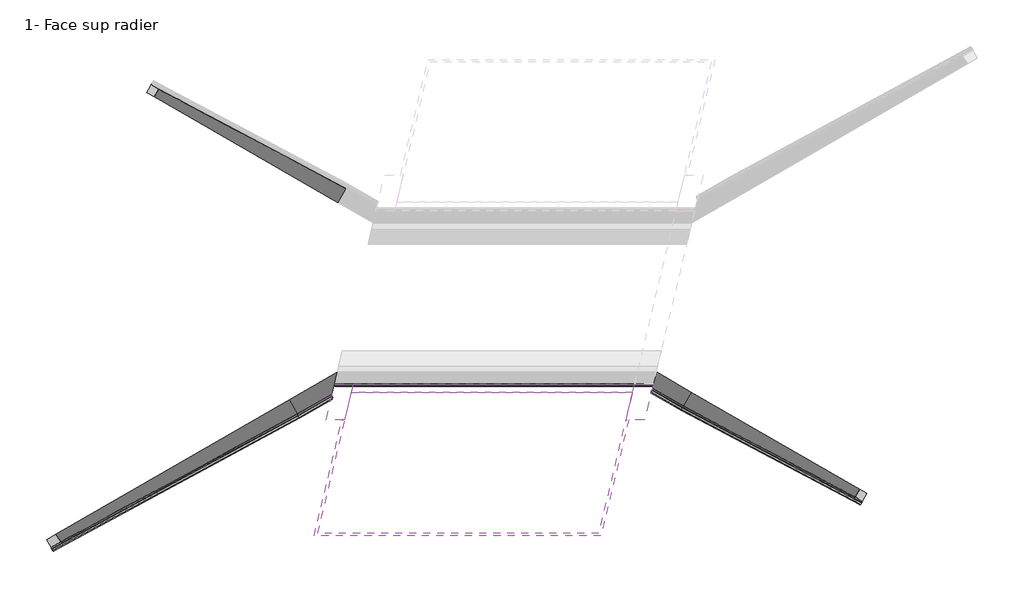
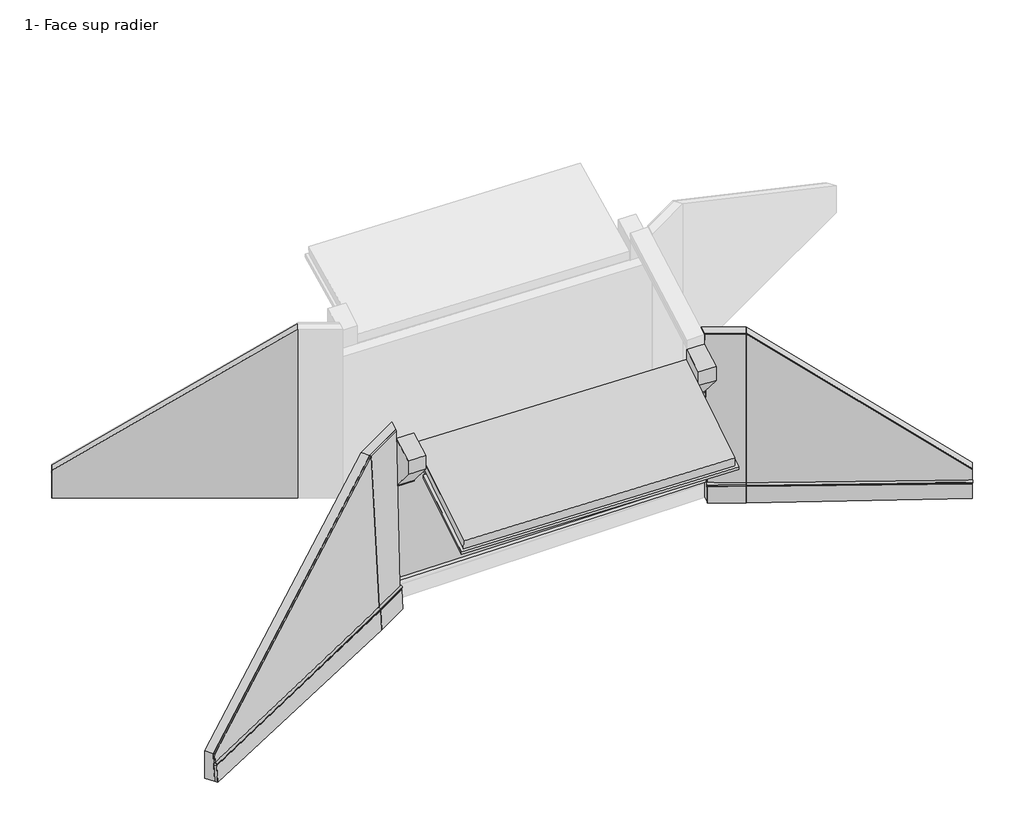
# One storey, part 1 of 2: 18 proxies.
"""IFC4 building model written with IfcOpenShell, lengths in millimetres."""

from ifc_helpers import new_model, si_unit, point, frame, frame_2d, origin, place, context, project, spatial, polyline, circle_curve, ellipse_curve, trimmed, segment, composite_curve, outline, extrude, faceted_brep, element, save
from ifc_brep_helpers import plane_surface, cylinder_surface, spline_surface, advanced_brep

model = new_model("IFC4")

# Units and contexts
model_context = context("Model", 3, world=origin())
ifc_project = project(units=[si_unit("LENGTHUNIT", "METRE", prefix="MILLI")], contexts=[model_context])

# Site, building, storey
site = spatial("IfcSite", under=ifc_project)
building = spatial("IfcBuilding", under=site)
storey = spatial("IfcBuildingStorey", under=building, Name="1- Face sup radier", Elevation=700.0)

# Proxies
placement = place(None, origin())
element("IfcBuildingElementProxy", 1, Name="Mur avec fruit - abouts droits : mur avec fruit - arase rampante ou horizontale - arase avec ou sans pente transversale - abouts droits", ObjectType="Mur avec fruit - abouts droits : mur avec fruit - arase rampante ou horizontale - arase avec ou sans pente transversale - abouts droits", at=placement, inside=storey, context=model_context, shape_type="AdvancedBrep", body=[
    advanced_brep(
    [(11675.368316, -6845.2044766, 1691.0), (11650.3685428, -6888.5058777, 700.0), (11825.3669557, -6585.3960701, 700.0), (11825.3669557, -6585.3960701, 1700.0), (5786.377768, -3445.2353113, 6665.0), (5936.3764077, -3185.4269047, 6674.0), (5936.3764077, -3185.4269047, 700.0), (5637.0291225, -3703.9178814, 700.0)],
    [
        (0, 1),
        (1, 2),
        (2, 3),
        (3, 0),
        (4, 5),
        (5, 6),
        (6, 7),
        (7, 4),
        (4, 0),
        (3, 5),
        (2, 6),
        (1, 7),
    ],
    [
        plane_surface(frame((11744.1176926, -6726.1256237, 1197.75), z_axis=(0.8660280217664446, -0.4999954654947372, 0.0), x_axis=(0.4997706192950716, 0.8656385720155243, 0.029986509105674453))),
        plane_surface(frame((5824.0399265, -3380.0017505, 3684.75), z_axis=(-0.8660280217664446, 0.4999954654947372, 0.0), x_axis=(0.4997706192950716, 0.8656385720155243, 0.029986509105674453))),
        plane_surface(frame((5861.3770879, -3315.331108, 6669.5), z_axis=(0.49903744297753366, -0.3160671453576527, 0.8068848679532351), x_axis=(-0.4997706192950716, -0.8656385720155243, -0.029986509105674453))),
        plane_surface(frame((5936.3764077, -3185.4269047, 3687.0), z_axis=(0.4999954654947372, 0.8660280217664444, 0.0), x_axis=(0.0, 0.0, 1.0))),
        plane_surface(frame((5786.7027651, -3444.6723931, 700.0), z_axis=(0.0, 0.0, -1.0000000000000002), x_axis=(0.4999954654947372, 0.8660280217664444, 0.0))),
        spline_surface(1, 1, [[(5786.377768, -3445.2353113, 6665.0), (11675.368316, -6845.2044766, 1691.0)], [(5637.0291225, -3703.9178814, 700.0), (11650.3685428, -6888.5058777, 700.0)]], [2, 2], [2, 2], [0.0, 1.0], [0.0, 1.0]),
    ],
    [
        (0, [[1, 2, 3, 4]]),
        (1, [[5, 6, 7, 8]]),
        (2, [[-5, 9, -4, 10]]),
        (3, [[-6, -10, -3, 11]]),
        (4, [[-7, -11, -2, 12]]),
        (5, [[-8, -12, -1, -9]]),
    ],
),
])
element("IfcBuildingElementProxy", 2, Name="Mur avec fruit - 1 about biais : mur avec fruit - arase rampante ou horizontale - arase avec ou sans pente transversale - 1 about  biais", ObjectType="Mur avec fruit - 1 about biais : mur avec fruit - arase rampante ou horizontale - arase avec ou sans pente transversale - 1 about  biais", at=placement, inside=storey, context=model_context, shape_type="Brep", body=[
    faceted_brep([(-7419.3379131, -3698.5704237, 6949.0), (-7569.3365527, -3438.7620172, 6958.0), (-7569.3365527, -3438.7620172, 700.0), (-7262.8893319, -3969.5505917, 700.0), (-6063.1513999, -2915.5852432, 6949.0), (-5967.1847125, -2513.770406, 6958.0), (-5967.1847125, -2513.770406, 700.0), (-6163.2446549, -3334.6781184, 700.0)], [[[0, 1, 2, 3]], [[0, 4, 5, 1]], [[1, 5, 6, 2]], [[2, 6, 7, 3]], [[3, 7, 4, 0]], [[4, 7, 6, 5]]]),
])
element("IfcBuildingElementProxy", 3, Name="Mur avec fruit - abouts droits : mur avec fruit - arase rampante ou horizontale - arase avec ou sans pente transversale - abouts droits", ObjectType="Mur avec fruit - abouts droits : mur avec fruit - arase rampante ou horizontale - arase avec ou sans pente transversale - abouts droits", at=placement, inside=storey, context=model_context, shape_type="AdvancedBrep", body=[
    advanced_brep(
    [(-15560.0013177, -8398.5277993, 1691.0), (-15709.9999573, -8138.7193928, 1700.0), (-15709.9999573, -8138.7193928, 700.0), (-15535.0015444, -8441.8292004, 700.0), (-7419.3379131, -3698.5704237, 6949.0), (-7262.8893319, -3969.5505917, 700.0), (-7569.3365527, -3438.7620172, 700.0), (-7569.3365527, -3438.7620172, 6958.0)],
    [
        (0, 1),
        (1, 2),
        (2, 3),
        (3, 0),
        (4, 5),
        (5, 6),
        (6, 7),
        (7, 4),
        (7, 1),
        (0, 4),
        (6, 2),
        (5, 3),
    ],
    [
        plane_surface(frame((-15628.7506942, -8279.4489463, 1197.75), z_axis=(-0.8660280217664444, -0.49999546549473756, 0.0), x_axis=(-0.49977061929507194, 0.8656385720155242, 0.029986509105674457))),
        plane_surface(frame((-7455.2250876, -3636.4112624, 3826.75), z_axis=(0.8660280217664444, 0.49999546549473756, 0.0), x_axis=(-0.49977061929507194, 0.8656385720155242, 0.029986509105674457))),
        plane_surface(frame((-7494.3372329, -3568.6662204, 6953.5), z_axis=(-0.40954551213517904, -0.26667062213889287, 0.8724444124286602), x_axis=(0.49977061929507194, -0.8656385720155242, -0.029986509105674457))),
        plane_surface(frame((-7569.3365527, -3438.7620172, 3829.0), z_axis=(-0.4999954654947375, 0.8660280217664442, 0.0), x_axis=(0.0, 0.0, 1.0))),
        plane_surface(frame((-7416.1129423, -3704.1563044, 700.0), z_axis=(0.0, 0.0, -1.0), x_axis=(-0.4999954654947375, 0.8660280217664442, 0.0))),
        spline_surface(1, 1, [[(-7419.3379131, -3698.5704237, 6949.0), (-7262.8893319, -3969.5505917, 700.0)], [(-15560.0013177, -8398.5277993, 1691.0), (-15535.0015444, -8441.8292004, 700.0)]], [2, 2], [2, 2], [0.0, 1.0], [0.0, 1.0]),
    ],
    [
        (0, [[1, 2, 3, 4]]),
        (1, [[5, 6, 7, 8]]),
        (2, [[9, -1, 10, -8]]),
        (3, [[11, -2, -9, -7]]),
        (4, [[12, -3, -11, -6]]),
        (5, [[-10, -4, -12, -5]]),
    ],
),
])
element("IfcBuildingElementProxy", 4, Name="Mur avec fruit - abouts droits : mur avec fruit - arase rampante ou horizontale - arase avec ou sans pente transversale - abouts droits", ObjectType="Mur avec fruit - abouts droits : mur avec fruit - arase rampante ou horizontale - arase avec ou sans pente transversale - abouts droits", at=placement, inside=storey, context=model_context, shape_type="AdvancedBrep", body=[
    advanced_brep(
    [(-12194.9851291, 7145.2017559, 1691.0), (-12169.9853558, 7188.503157, 700.0), (-12344.9837688, 6885.3933494, 700.0), (-12344.9837688, 6885.3933494, 1700.0), (-5786.377768, 3445.2353113, 6892.0), (-5936.3764077, 3185.4269047, 6901.0), (-5936.3764077, 3185.4269047, 700.0), (-5631.354174, 3713.7472994, 700.0)],
    [
        (0, 1),
        (1, 2),
        (2, 3),
        (3, 0),
        (4, 5),
        (5, 6),
        (6, 7),
        (7, 4),
        (4, 0),
        (3, 5),
        (2, 6),
        (1, 7),
    ],
    [
        plane_surface(frame((-12263.7345056, 7026.1229029, 1197.75), z_axis=(-0.8660280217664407, 0.4999954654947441, 0.0), x_axis=(-0.49977061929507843, -0.8656385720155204, 0.029986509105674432))),
        plane_surface(frame((-5822.6211893, 3382.4591051, 3798.25), z_axis=(0.8660280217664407, -0.4999954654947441, 0.0), x_axis=(-0.49977061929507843, -0.8656385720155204, 0.029986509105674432))),
        plane_surface(frame((-5861.3770879, 3315.331108, 6896.5), z_axis=(-0.4855648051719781, 0.3086701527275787, 0.8178933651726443), x_axis=(0.49977061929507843, 0.8656385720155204, -0.029986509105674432))),
        plane_surface(frame((-5936.3764077, 3185.4269047, 3800.5), z_axis=(-0.49999546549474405, -0.8660280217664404, 0.0), x_axis=(0.0, 0.0, 1.0))),
        plane_surface(frame((-5783.8652908, 3449.5871021, 700.0), z_axis=(0.0, 0.0, -1.0), x_axis=(-0.49999546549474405, -0.8660280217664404, 0.0))),
        spline_surface(1, 1, [[(-5786.377768, 3445.2353113, 6892.0), (-12194.9851291, 7145.2017559, 1691.0)], [(-5631.354174, 3713.7472994, 700.0), (-12169.9853558, 7188.503157, 700.0)]], [2, 2], [2, 2], [0.0, 1.0], [0.0, 1.0]),
    ],
    [
        (0, [[1, 2, 3, 4]]),
        (1, [[5, 6, 7, 8]]),
        (2, [[-5, 9, -4, 10]]),
        (3, [[-6, -10, -3, 11]]),
        (4, [[-7, -11, -2, 12]]),
        (5, [[-8, -12, -1, -9]]),
    ],
),
])
element("IfcBuildingElementProxy", 5, Name="Mur drapeau 2 : mur drapeau 2", ObjectType="Mur drapeau 2 : mur drapeau 2", at=placement, inside=storey, context=model_context, shape_type="Brep", body=[
    faceted_brep([(3746.3849443, -4115.8053336, 6351.8785847), (4036.7595141, -2900.0, 6340.3956548), (4036.7595141, -2900.0, 4601.8785847), (3746.3849443, -4115.8053336, 5851.8785847), (4363.2600141, -4115.8053336, 6335.5114962), (4363.2600141, -4115.8053336, 5835.5114962), (4653.6345839, -2900.0, 4585.5114962), (4653.6345839, -2900.0, 6324.0285663)], [[[0, 1, 2, 3]], [[4, 5, 6, 7]], [[5, 4, 0, 3]], [[6, 5, 3, 2]], [[7, 6, 2, 1]], [[4, 7, 1, 0]]]),
])
element("IfcBuildingElementProxy", 6, Name="Mur avec fruit - 1 about biais : mur avec fruit - arase rampante ou horizontale - arase avec ou sans pente transversale - 1 about  biais", ObjectType="Mur avec fruit - 1 about biais : mur avec fruit - arase rampante ou horizontale - arase avec ou sans pente transversale - 1 about  biais", at=placement, inside=storey, context=model_context, shape_type="Brep", body=[
    faceted_brep([(5786.377768, -3445.2353113, 6665.0), (5637.0291225, -3703.9178814, 700.0), (5936.3764077, -3185.4269047, 700.0), (5936.3764077, -3185.4269047, 6674.0), (4767.2385783, -2510.4330263, 6674.0), (4694.5302661, -2814.8644847, 6665.0), (4767.2385783, -2510.4330263, 700.0), (4622.1370233, -3117.97674, 700.0)], [[[0, 1, 2, 3]], [[0, 3, 4, 5]], [[3, 2, 6, 4]], [[2, 1, 7, 6]], [[1, 0, 5, 7]], [[5, 4, 6, 7]]]),
])
element("IfcBuildingElementProxy", 7, Name="Mur drapeau 3 : mur drapeau 3", ObjectType="Mur drapeau 3 : mur drapeau 3", at=placement, inside=storey, context=model_context, shape_type="Brep", body=[
    faceted_brep([(-5421.9915557, -2900.0, 6591.3576792), (-5712.3661255, -4115.8053336, 6603.2021219), (-5712.3661255, -4115.8053336, 6103.2021219), (-5421.9915557, -2900.0, 4853.2021219), (-6038.8666255, -2900.0, 6607.7247677), (-6038.8666255, -2900.0, 4869.5692104), (-6329.2411952, -4115.8053336, 6119.5692104), (-6329.2411952, -4115.8053336, 6619.5692104)], [[[0, 1, 2, 3]], [[4, 5, 6, 7]], [[4, 7, 1, 0]], [[7, 6, 2, 1]], [[6, 5, 3, 2]], [[5, 4, 0, 3]]]),
])
element("IfcBuildingElementProxy", 8, Name="Corbeau E : corbeau E", ObjectType="Corbeau E : corbeau E", at=placement, inside=storey, context=model_context, shape_type="Brep", body=[
    faceted_brep([(3945.1095809, -3200.0, 5372.721759), (3945.1095809, -3200.0, 5672.8273345), (-5473.6414889, -3200.0, 5922.7280685), (-5473.6414889, -3200.0, 5622.622493), (4016.7595141, -2900.0, 5070.7151489), (-5401.9915557, -2900.0, 5320.615883), (4016.7595141, -2900.0, 5670.9263), (-5401.9915557, -2900.0, 5920.827034)], [[[0, 1, 2, 3]], [[4, 0, 3, 5]], [[6, 4, 5, 7]], [[1, 6, 7, 2]], [[1, 0, 4, 6]], [[3, 2, 7, 5]]]),
])
element("IfcBuildingElementProxy", 9, Name="Béton de propreté DT E : béton de propreté DT E", ObjectType="Béton de propreté DT E : béton de propreté DT E", at=placement, inside=storey, context=model_context, shape_type="Brep", body=[
    faceted_brep([(-5473.6414889, -3200.0, 5941.10159), (-5692.3661255, -4115.8053336, 5910.2246217), (-5795.1786371, -4115.8053336, 5912.9358871), (-6724.7450851, -8007.9224927, 5781.7106432), (2899.6310079, -8007.9224927, 5527.9065317), (3829.197456, -4115.8053336, 5659.1317756), (3726.3849443, -4115.8053336, 5661.843041), (3945.1095809, -3200.0, 5692.7200094), (-5692.3661255, -4115.8053336, 5810.1098605), (-5473.6414889, -3200.0, 5840.9868288), (3726.3849443, -4115.8053336, 5561.7282798), (3945.1095809, -3200.0, 5592.6052482), (3829.197456, -4115.8053336, 5559.0170144), (2899.6310079, -8007.9224927, 5427.7917705), (-6724.7450851, -8007.9224927, 5681.595882), (-5795.1786371, -4115.8053336, 5812.8211259)], [[[0, 1, 2, 3, 4, 5, 6, 7]], [[8, 1, 0, 9]], [[6, 10, 11, 7]], [[9, 0, 7, 11]], [[8, 9, 11, 10, 12, 13, 14, 15]], [[3, 14, 13, 4]], [[2, 15, 14, 3]], [[1, 8, 15, 2]], [[10, 6, 5, 12]], [[12, 5, 4, 13]]]),
])
element("IfcBuildingElementProxy", 10, Name="Complexe drainant P E : complexe drainant P E", ObjectType="Complexe drainant P E : complexe drainant P E", at=placement, inside=storey, context=model_context, shape_type="SweptSolid", body=[
    extrude(outline(polyline([(5070.1845038, 4036.7595141), (5321.1465281, -5421.9915557), (4853.2021219, -5421.9915557), (4869.5692104, -6038.8666255), (1510.0, -6038.8666255), (1400.0, 4653.6345839), (4585.5114962, 4653.6345839), (4601.8785847, 4036.7595141), (5070.1845038, 4036.7595141)])), frame((0.0, -2950.0, 0.0), z_axis=(0.0, 1.0, 0.0), x_axis=(0.0, 0.0, 1.0)), (0.0, 0.0, 1.0), 50.0),
])
element("IfcBuildingElementProxy", 11, Name="Complexe drainant M3 : complexe drainant M3", ObjectType="Complexe drainant M3 : complexe drainant M3", at=placement, inside=storey, context=model_context, shape_type="SolidModel", body=[
    faceted_brep([(-7419.3379131, -3698.5704237, 6949.0), (-7282.6926329, -3935.2498535, 1491.0), (-7257.6928596, -3978.5512546, 1491.0), (-7394.3381398, -3741.8718248, 6949.0), (-6079.1458478, -2982.5543827, 6949.0), (-6063.1513999, -2915.5852432, 6949.0), (-6166.3619111, -3347.7301451, 1503.9459928), (-6150.3596725, -3280.7283856, 1504.4323821)], [[[0, 1, 2, 3]], [[0, 3, 4, 5]], [[3, 2, 6, 4]], [[2, 1, 7, 6]], [[1, 0, 5, 7]], [[5, 4, 6, 7]]]),
    advanced_brep(
    [(-7419.3379131, -3698.5704237, 6949.0), (-7394.3381398, -3741.8718248, 6949.0), (-7257.6928596, -3978.5512546, 1491.0), (-7282.6926329, -3935.2498535, 1491.0), (-15560.0013177, -8398.5277993, 1691.0), (-15552.5846342, -8411.3740273, 1397.0), (-15527.5848609, -8454.6754284, 1397.0), (-15535.0015444, -8441.8292004, 1691.0)],
    [
        (0, 1),
        (1, 2),
        (2, 3),
        (3, 0),
        (4, 5),
        (5, 6),
        (6, 7),
        (7, 4),
        (7, 1),
        (0, 4),
        (6, 2),
        (5, 3),
    ],
    [
        plane_surface(frame((-7338.5153863, -3838.5608391, 4220.0), z_axis=(0.8660280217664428, 0.49999546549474, 0.0), x_axis=(0.49999546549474, -0.8660280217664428, 0.0))),
        plane_surface(frame((-15543.7930893, -8426.6016139, 1544.0), z_axis=(-0.8660280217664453, -0.4999954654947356, 0.0), x_axis=(0.4999954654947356, -0.8660280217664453, 0.0))),
        plane_surface(frame((-15547.501431, -8420.1784999, 1691.0), z_axis=(-0.4227768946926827, -0.24408740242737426, 0.8727433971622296), x_axis=(0.49999546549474, -0.8660280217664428, 0.0))),
        spline_surface(1, 1, [[(-15535.0015444, -8441.8292004, 1691.0), (-7394.3381398, -3741.8718248, 6949.0)], [(-15527.5848609, -8454.6754284, 1397.0), (-7257.6928596, -3978.5512546, 1491.0)]], [2, 2], [2, 2], [0.0, 1.0], [0.0, 1.0]),
        plane_surface(frame((-15540.0847476, -8433.0247279, 1397.0), z_axis=(0.00865984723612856, 0.0049997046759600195, -0.9999500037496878), x_axis=(-0.49999546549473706, 0.8660280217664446, 0.0))),
        spline_surface(1, 1, [[(-15552.5846342, -8411.3740273, 1397.0), (-7282.6926329, -3935.2498535, 1491.0)], [(-15560.0013177, -8398.5277993, 1691.0), (-7419.3379131, -3698.5704237, 6949.0)]], [2, 2], [2, 2], [0.0, 1.0], [0.0, 1.0]),
    ],
    [
        (0, [[1, 2, 3, 4]]),
        (1, [[5, 6, 7, 8]]),
        (2, [[-8, 9, -1, 10]]),
        (3, [[-7, 11, -2, -9]]),
        (4, [[-6, 12, -3, -11]]),
        (5, [[-5, -10, -4, -12]]),
    ],
),
])
element("IfcBuildingElementProxy", 12, Name="Complexe drainant M2 : complexe drainant M2", ObjectType="Complexe drainant M2 : complexe drainant M2", at=placement, inside=storey, context=model_context, shape_type="SolidModel", body=[
    faceted_brep([(5786.377768, -3445.2353113, 6665.0), (5761.3779948, -3488.5367124, 6665.0), (5629.2050694, -3717.4697027, 1386.0), (5654.2048427, -3674.1683017, 1386.0), (4694.5302661, -2814.8644847, 6665.0), (4682.4122141, -2865.603061, 6665.0), (4618.4914269, -3133.2409403, 1398.1065577), (4630.6113513, -3082.4945243, 1398.2608355)], [[[0, 1, 2, 3]], [[1, 0, 4, 5]], [[2, 1, 5, 6]], [[3, 2, 6, 7]], [[0, 3, 7, 4]], [[5, 4, 7, 6]]]),
    advanced_brep(
    [(11675.368316, -6845.2044766, 1691.0), (11650.3685428, -6888.5058777, 1691.0), (11640.9589409, -6904.8039833, 1318.0), (11665.9587142, -6861.5025822, 1318.0), (5786.377768, -3445.2353113, 6665.0), (5654.2048427, -3674.1683017, 1386.0), (5629.2050694, -3717.4697027, 1386.0), (5761.3779948, -3488.5367124, 6665.0)],
    [
        (0, 1),
        (1, 2),
        (2, 3),
        (3, 0),
        (4, 5),
        (5, 6),
        (6, 7),
        (7, 4),
        (7, 1),
        (0, 4),
        (6, 2),
        (5, 3),
    ],
    [
        plane_surface(frame((11658.1636285, -6875.00423, 1504.5), z_axis=(0.8660280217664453, -0.4999954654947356, 0.0), x_axis=(-0.4999954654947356, -0.8660280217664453, 0.0))),
        plane_surface(frame((5707.7914187, -3581.352507, 4025.5), z_axis=(-0.8660280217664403, 0.49999546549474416, 0.0), x_axis=(-0.49999546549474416, -0.8660280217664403, 0.0))),
        plane_surface(frame((5773.8778814, -3466.8860118, 6665.0), z_axis=(0.5112904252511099, -0.29519009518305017, 0.8071213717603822), x_axis=(-0.4999954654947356, -0.8660280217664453, 0.0))),
        spline_surface(1, 1, [[(5761.3779948, -3488.5367124, 6665.0), (11650.3685428, -6888.5058777, 1691.0)], [(5629.2050694, -3717.4697027, 1386.0), (11640.9589409, -6904.8039833, 1318.0)]], [2, 2], [2, 2], [0.0, 1.0], [0.0, 1.0]),
        plane_surface(frame((5641.704956, -3695.8190022, 1386.0), z_axis=(-0.00865984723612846, 0.004999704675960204, -0.9999500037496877), x_axis=(0.4999954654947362, 0.866028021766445, 0.0))),
        spline_surface(1, 1, [[(5654.2048427, -3674.1683017, 1386.0), (11665.9587142, -6861.5025822, 1318.0)], [(5786.377768, -3445.2353113, 6665.0), (11675.368316, -6845.2044766, 1691.0)]], [2, 2], [2, 2], [0.0, 1.0], [0.0, 1.0]),
    ],
    [
        (0, [[1, 2, 3, 4]]),
        (1, [[5, 6, 7, 8]]),
        (2, [[-8, 9, -1, 10]]),
        (3, [[-7, 11, -2, -9]]),
        (4, [[-6, 12, -3, -11]]),
        (5, [[-5, -10, -4, -12]]),
    ],
),
])
element("IfcBuildingElementProxy", 13, Name="Drain P E : drain P E", ObjectType="Drain P E : drain P E", at=placement, inside=storey, context=model_context, shape_type="SweptSolid", body=[
    extrude(outline(composite_curve([segment(trimmed(circle_curve(frame_2d((-50.0, 50.0)), 48.0), [point((-50.0, 98.0))], [point((-50.0, 2.0))], False, "CARTESIAN"), True, "CONTINUOUS"), segment(trimmed(circle_curve(frame_2d((-50.0, 50.0)), 48.0), [point((-50.0, 2.0))], [point((-50.0, 98.0))], False, "CARTESIAN"), True, "CONTINUOUS")], self_intersect=False)), frame((4653.6345839, -3000.0, 1300.0), z_axis=(-0.9999470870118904, 0.0, 0.010287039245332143), x_axis=(0.0, -1.0, 0.0)), (0.0, 0.0, 1.0), 10693.0670115),
])
element("IfcBuildingElementProxy", 14, Name="Assise drain M2 : assise drain M2", ObjectType="Assise drain M2 : assise drain M2", at=placement, inside=storey, context=model_context, shape_type="SolidModel", body=[
    faceted_brep([(5651.7010934, -3678.5049751, 1286.0), (5601.7015468, -3765.1077773, 1286.0), (5587.0295759, -3790.5206836, 700.0), (5637.0291225, -3703.9178814, 700.0), (4629.3975302, -3087.5768225, 1298.2453845), (4622.1370233, -3117.97674, 1298.1529635), (4587.1137274, -3178.6396015, 1298.1529635), (4572.1374768, -3204.5795422, 700.0), (4622.1370233, -3117.97674, 700.0)], [[[0, 1, 2, 3]], [[1, 0, 4, 5, 6]], [[2, 1, 6, 7]], [[3, 2, 7, 8]], [[0, 3, 8, 4]], [[5, 8, 7, 6]], [[8, 5, 4]]]),
    advanced_brep(
    [(11663.4360327, -6865.8720475, 1218.0), (11613.4364862, -6952.4748497, 1218.0), (11600.3689962, -6975.1086799, 700.0), (11650.3685428, -6888.5058777, 700.0), (5651.7010934, -3678.5049751, 1286.0), (5637.0291225, -3703.9178814, 700.0), (5587.0295759, -3790.5206836, 700.0), (5601.7015468, -3765.1077773, 1286.0)],
    [
        (0, 1),
        (1, 2),
        (2, 3),
        (3, 0),
        (4, 5),
        (5, 6),
        (6, 7),
        (7, 4),
        (7, 1),
        (0, 4),
        (6, 2),
        (5, 3),
    ],
    [
        plane_surface(frame((11631.9025145, -6920.4903637, 959.0), z_axis=(0.866028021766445, -0.4999954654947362, 0.0), x_axis=(-0.4999954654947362, -0.866028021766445, 0.0))),
        plane_surface(frame((5619.3653347, -3734.5128293, 993.0), z_axis=(-0.8660280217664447, 0.49999546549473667, 0.0), x_axis=(-0.49999546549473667, -0.8660280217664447, 0.0))),
        plane_surface(frame((5626.7013201, -3721.8063762, 1286.0), z_axis=(0.008659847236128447, -0.0049997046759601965, 0.9999500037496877), x_axis=(-0.4999954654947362, -0.866028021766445, 0.0))),
        spline_surface(1, 1, [[(5601.7015468, -3765.1077773, 1286.0), (11613.4364862, -6952.4748497, 1218.0)], [(5587.0295759, -3790.5206836, 700.0), (11600.3689962, -6975.1086799, 700.0)]], [2, 2], [2, 2], [0.0, 1.0], [0.0, 1.0]),
        plane_surface(frame((5612.0293492, -3747.2192825, 700.0), z_axis=(0.0, 0.0, -1.0), x_axis=(0.4999954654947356, 0.8660280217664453, 0.0))),
        spline_surface(1, 1, [[(5637.0291225, -3703.9178814, 700.0), (11650.3685428, -6888.5058777, 700.0)], [(5651.7010934, -3678.5049751, 1286.0), (11663.4360327, -6865.8720475, 1218.0)]], [2, 2], [2, 2], [0.0, 1.0], [0.0, 1.0]),
    ],
    [
        (0, [[1, 2, 3, 4]]),
        (1, [[5, 6, 7, 8]]),
        (2, [[-8, 9, -1, 10]]),
        (3, [[-7, 11, -2, -9]]),
        (4, [[-6, 12, -3, -11]]),
        (5, [[-5, -10, -4, -12]]),
    ],
),
])
element("IfcBuildingElementProxy", 15, Name="Assise drain M3 : assise drain M3", ObjectType="Assise drain M3 : assise drain M3", at=placement, inside=storey, context=model_context, shape_type="SolidModel", body=[
    faceted_brep([(-7280.189055, -3939.58623, 1391.0), (-7262.8893319, -3969.5505917, 700.0), (-7212.8897854, -4056.1533939, 700.0), (-7230.1895085, -4026.1890322, 1391.0), (-6130.8560511, -3390.7775042, 1403.4309926), (-6163.2446549, -3334.6781184, 1403.4309926), (-6151.9722292, -3287.4801994, 1403.7575986), (-6113.2451084, -3421.2809205, 700.0), (-6163.2446549, -3334.6781184, 700.0)], [[[0, 1, 2, 3]], [[0, 3, 4, 5, 6]], [[3, 2, 7, 4]], [[2, 1, 8, 7]], [[1, 0, 6, 8]], [[8, 5, 4, 7]], [[5, 8, 6]]]),
    advanced_brep(
    [(-7280.189055, -3939.58623, 1391.0), (-7230.1895085, -4026.1890322, 1391.0), (-7212.8897854, -4056.1533939, 700.0), (-7262.8893319, -3969.5505917, 700.0), (-15550.0619527, -8415.7434926, 1297.0), (-15535.0015444, -8441.8292004, 700.0), (-15485.0019979, -8528.4320026, 700.0), (-15500.0624062, -8502.3462948, 1297.0)],
    [
        (0, 1),
        (1, 2),
        (2, 3),
        (3, 0),
        (4, 5),
        (5, 6),
        (6, 7),
        (7, 4),
        (7, 1),
        (0, 4),
        (6, 2),
        (5, 3),
    ],
    [
        plane_surface(frame((-7246.5394202, -3997.8698119, 1045.5), z_axis=(0.866028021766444, 0.4999954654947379, 0.0), x_axis=(0.4999954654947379, -0.866028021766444, 0.0))),
        plane_surface(frame((-15517.5319753, -8472.0877476, 998.5), z_axis=(-0.8660280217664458, -0.49999546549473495, 0.0), x_axis=(0.49999546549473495, -0.8660280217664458, 0.0))),
        plane_surface(frame((-15525.0621795, -8459.0448937, 1297.0), z_axis=(-0.008659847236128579, -0.004999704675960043, 0.9999500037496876), x_axis=(0.4999954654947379, -0.866028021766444, 0.0))),
        spline_surface(1, 1, [[(-15500.0624062, -8502.3462948, 1297.0), (-7230.1895085, -4026.1890322, 1391.0)], [(-15485.0019979, -8528.4320026, 700.0), (-7212.8897854, -4056.1533939, 700.0)]], [2, 2], [2, 2], [0.0, 1.0], [0.0, 1.0]),
        plane_surface(frame((-15510.0017711, -8485.1306015, 700.0), z_axis=(0.0, 0.0, -1.0), x_axis=(-0.4999954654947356, 0.8660280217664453, 0.0))),
        spline_surface(1, 1, [[(-15535.0015444, -8441.8292004, 700.0), (-7262.8893319, -3969.5505917, 700.0)], [(-15550.0619527, -8415.7434926, 1297.0), (-7280.189055, -3939.58623, 1391.0)]], [2, 2], [2, 2], [0.0, 1.0], [0.0, 1.0]),
    ],
    [
        (0, [[1, 2, 3, 4]]),
        (1, [[5, 6, 7, 8]]),
        (2, [[-8, 9, -1, 10]]),
        (3, [[-7, 11, -2, -9]]),
        (4, [[-6, 12, -3, -11]]),
        (5, [[-5, -10, -4, -12]]),
    ],
),
])
element("IfcBuildingElementProxy", 16, Name="Dalle de transition E : dalle de transition E", ObjectType="Dalle de transition E : dalle de transition E", at=placement, inside=storey, context=model_context, shape_type="Brep", body=[
    faceted_brep([(-6598.0683462, -7908.0023968, 5782.3682483), (-5404.8569806, -2911.9976032, 5950.8117768), (4013.8940892, -2911.9976032, 5702.4301962), (2820.6827236, -7908.0023968, 5533.9866677), (-6600.9320535, -7919.9928083, 6082.3082674), (2817.8190163, -7919.9928083, 5833.9266868), (-5407.7206879, -2923.9880147, 6250.7517959), (4011.0303819, -2923.9880147, 6002.3702152)], [[[0, 1, 2, 3]], [[4, 0, 3, 5]], [[6, 4, 5, 7]], [[1, 6, 7, 2]], [[1, 0, 4, 6]], [[3, 2, 7, 5]]]),
])
element("IfcBuildingElementProxy", 17, Name="Drain M2 : drain M2", ObjectType="Drain M2 : drain M2", at=placement, inside=storey, context=model_context, shape_type="AdvancedBrep", body=[
    advanced_brep(
    [(11663.8690251, -6866.1220327, 1267.9975002), (11617.0261801, -6954.4721689, 1267.9614257), (5652.1422678, -3678.7592984, 1335.9974076), (5603.6823614, -3766.2520834, 1335.979624), (4629.8467224, -3087.8357804, 1348.2426961), (4579.8022204, -3174.4126123, 1348.2438931)],
    [
        (0, 1, circle_curve(frame((11640.4476026, -6910.2971008, 1267.9794629), z_axis=(0.8834589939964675, -0.46840190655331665, -0.00999299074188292), x_axis=(-0.46842845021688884, -0.8835013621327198, -0.00036074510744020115)), 50.0)),
        (1, 0, circle_curve(frame((11640.4476026, -6910.2971008, 1267.9794629), z_axis=(0.8834589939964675, -0.46840190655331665, -0.00999299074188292), x_axis=(-0.46842845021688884, -0.8835013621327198, -0.00036074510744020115)), 50.0)),
        (0, 2),
        (2, 3, ellipse_curve(frame((5627.9123146, -3722.5056909, 1335.9885158), z_axis=(0.8747368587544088, -0.48449120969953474, -0.010183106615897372), x_axis=(0.48458236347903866, 0.8746850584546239, 0.010294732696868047)), 50.0083758, 50.0)),
        (3, 1),
        (3, 2, ellipse_curve(frame((5627.9123146, -3722.5056909, 1335.9885158), z_axis=(0.8747368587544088, -0.48449120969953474, -0.010183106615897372), x_axis=(0.48458236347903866, 0.8746850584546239, 0.010294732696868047)), 50.0083758, 50.0)),
        (4, 5, circle_curve(frame((4604.8244714, -3131.1241963, 1348.2432946), z_axis=(-0.8657217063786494, 0.5004182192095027, 0.010369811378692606), x_axis=(-0.5004450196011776, -0.8657683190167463, 1.1970568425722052e-05)), 50.0)),
        (5, 4, circle_curve(frame((4604.8244714, -3131.1241963, 1348.2432946), z_axis=(-0.8657217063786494, 0.5004182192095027, 0.010369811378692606), x_axis=(-0.5004450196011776, -0.8657683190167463, 1.1970568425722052e-05)), 50.0)),
        (2, 4),
        (5, 3),
    ],
    [
        plane_surface(frame((11663.4360327, -6865.8720475, 1218.0), z_axis=(0.8834589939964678, -0.46840190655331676, -0.00999299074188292), x_axis=(0.00865984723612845, -0.004999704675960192, 0.9999500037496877))),
        cylinder_surface(frame((11640.4476026, -6910.2971008, 1267.9794629), z_axis=(0.8834589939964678, -0.46840190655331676, -0.009992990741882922), x_axis=(-0.46842845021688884, -0.8835013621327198, -0.00036074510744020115)), 50.0),
        plane_surface(frame((4629.3975302, -3087.5768225, 1298.2453845), z_axis=(-0.8657217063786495, 0.5004182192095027, 0.010369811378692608), x_axis=(0.008983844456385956, -0.005179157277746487, 0.9999462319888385))),
        cylinder_surface(frame((5627.1280346, -3722.0523489, 1335.9979101), z_axis=(0.8657217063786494, -0.5004182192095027, -0.010369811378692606), x_axis=(-0.5004450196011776, -0.8657683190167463, 1.1970568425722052e-05)), 50.0),
    ],
    [
        (0, [[1, 2]]),
        (1, [[-1, 3, 4, 5]]),
        (1, [[-2, -5, 6, -3]]),
        (2, [[7, 8]]),
        (3, [[-4, 9, -8, 10]]),
        (3, [[-6, -10, -7, -9]]),
    ],
),
])
element("IfcBuildingElementProxy", 18, Name="Drain M3 : drain M3", ObjectType="Drain M3 : drain M3", at=placement, inside=storey, context=model_context, shape_type="AdvancedBrep", body=[
    advanced_brep(
    [(-6152.4055103, -3287.7087118, 1453.7552026), (-6102.363518, -3374.2869944, 1453.7553992), (-7280.6266518, -3939.8172368, 1440.9975552), (-7231.79563, -4027.0954568, 1440.9840584), (-15550.5039332, -8415.9768721, 1346.9975054), (-15502.9029838, -8503.9208819, 1346.9700269)],
    [
        (0, 1, circle_curve(frame((-6127.3845142, -3330.9978531, 1453.7553009), z_axis=(0.8657413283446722, 0.5003959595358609, 0.009789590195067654), x_axis=(0.5004199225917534, -0.8657828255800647, 1.9654635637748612e-06)), 50.0)),
        (1, 0, circle_curve(frame((-6127.3845142, -3330.9978531, 1453.7553009), z_axis=(0.8657413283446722, 0.5003959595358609, 0.009789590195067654), x_axis=(0.5004199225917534, -0.8657828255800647, 1.9654635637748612e-06)), 50.0)),
        (0, 2),
        (2, 3, ellipse_curve(frame((-7256.2111409, -3983.4563468, 1440.9908068), z_axis=(0.8726547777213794, 0.4882373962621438, 0.00989362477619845), x_axis=(-0.4881844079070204, 0.8727093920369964, -0.007368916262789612)), 50.0048914, 50.0)),
        (3, 1),
        (3, 2, ellipse_curve(frame((-7256.2111409, -3983.4563468, 1440.9908068), z_axis=(0.8726547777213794, 0.4882373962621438, 0.00989362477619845), x_axis=(-0.4881844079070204, 0.8727093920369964, -0.007368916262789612)), 50.0048914, 50.0)),
        (4, 5, circle_curve(frame((-15526.7034585, -8459.948877, 1346.9837661), z_axis=(-0.8793975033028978, -0.47598331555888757, -0.009995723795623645), x_axis=(0.4760094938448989, -0.8794400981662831, -0.0002747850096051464)), 50.0)),
        (5, 4, circle_curve(frame((-15526.7034585, -8459.948877, 1346.9837661), z_axis=(-0.8793975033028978, -0.47598331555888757, -0.009995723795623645), x_axis=(0.4760094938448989, -0.8794400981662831, -0.0002747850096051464)), 50.0)),
        (2, 4),
        (5, 3),
    ],
    [
        plane_surface(frame((-6151.9722292, -3287.4801994, 1403.7575986), z_axis=(0.8657413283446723, 0.500395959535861, 0.009789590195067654), x_axis=(-0.008476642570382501, -0.004897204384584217, 0.9999520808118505))),
        cylinder_surface(frame((-6127.3845142, -3330.9978531, 1453.7553009), z_axis=(0.8657413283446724, 0.500395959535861, 0.009789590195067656), x_axis=(0.5004199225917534, -0.8657828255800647, 1.9654635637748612e-06)), 50.0),
        plane_surface(frame((-15550.0619527, -8415.7434926, 1297.0), z_axis=(-0.8793975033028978, -0.4759833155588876, -0.009995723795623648), x_axis=(-0.00865984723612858, -0.004999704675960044, 0.9999500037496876))),
        cylinder_surface(frame((-7256.8305608, -3983.7916144, 1440.9837661), z_axis=(0.8793975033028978, 0.47598331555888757, 0.009995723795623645), x_axis=(0.4760094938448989, -0.8794400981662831, -0.0002747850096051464)), 50.0),
    ],
    [
        (0, [[1, 2]]),
        (1, [[-1, 3, 4, 5]]),
        (1, [[-2, -5, 6, -3]]),
        (2, [[7, 8]]),
        (3, [[-4, 9, -8, 10]]),
        (3, [[-6, -10, -7, -9]]),
    ],
),
])

save(model, "model.ifc")
